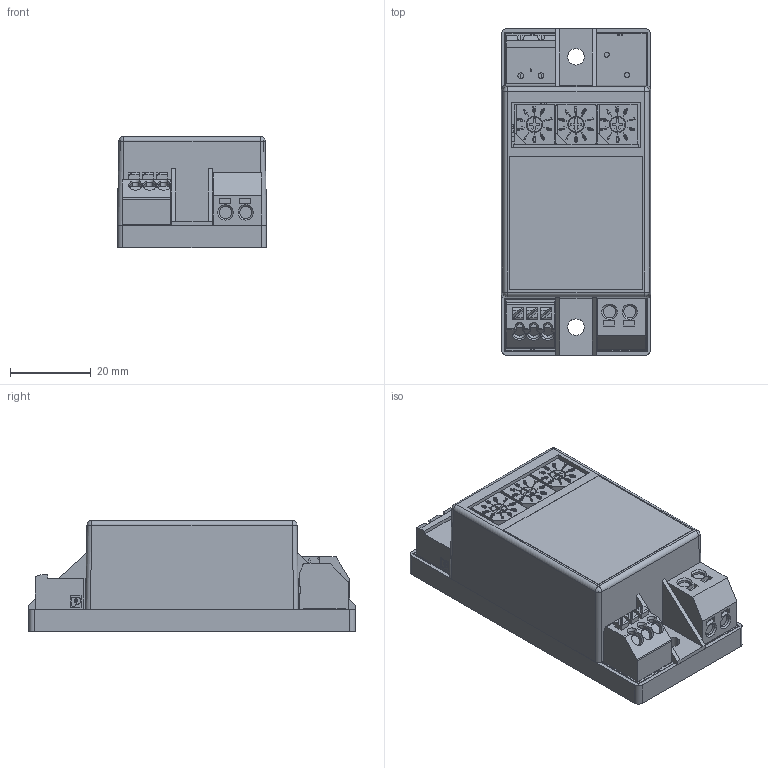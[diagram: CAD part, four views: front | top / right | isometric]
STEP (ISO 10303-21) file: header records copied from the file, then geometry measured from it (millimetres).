
FILE_DESCRIPTION (( 'STEP AP214' ), '1' );
FILE_NAME ('D-EAM.STEP', '2018-06-05T09:21:34', ( '' ), ( '' ), 'SwSTEP 2.0', 'SolidWorks 2018', '' );
FILE_SCHEMA (( 'AUTOMOTIVE_DESIGN' ));
Length unit declared in the file: millimetre
Products named in the file (5): ELSM-01; Unterteil; Oberteil-hoch-adr; D-EAM; Aufkleber-33x33-EAM
Assembly tree (4 placements, depth 2):
  D-EAM
    ELSM-01
    Oberteil-hoch-adr
    Unterteil
    Aufkleber-33x33-EAM
Bounding box: 37 x 80.9 x 27.7 mm (x, y, z)
Volume: 33022.6 mm3; surface area: 42353.6 mm2
Topology: 216 solids, 216 shells, 2952 faces, 7061 edges, 4653 vertices
Faces by surface type: plane 2152, cylinder 728, cone 52, sphere 12, torus 8
Entity records: 118300 total; most frequent: CARTESIAN_POINT 14984, DIRECTION 14437, ORIENTED_EDGE 14114, EDGE_CURVE 7057, LINE 5417, VECTOR 5417, VERTEX_POINT 4653, AXIS2_PLACEMENT_3D 4510
